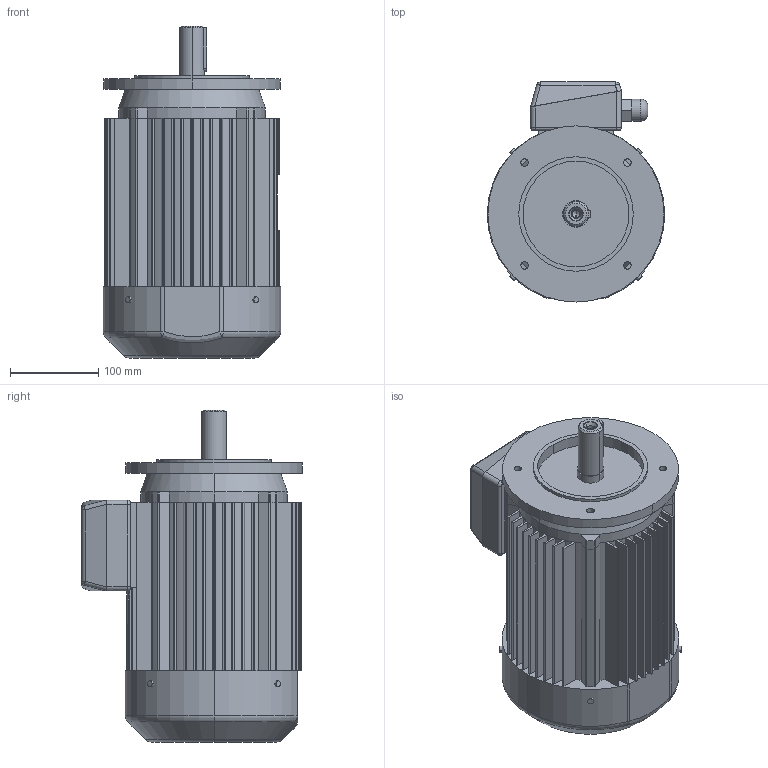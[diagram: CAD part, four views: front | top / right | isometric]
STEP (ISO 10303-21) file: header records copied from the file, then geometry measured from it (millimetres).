
FILE_DESCRIPTION (( 'STEP AP203' ), '1' );
FILE_NAME ('2SIEK100L2,6-B14-C1.STEP', '2013-01-07T13:03:14', ( 'INDUKTA' ), ( 'CANTONI MOTOR' ), 'SwSTEP 2.0', 'SolidWorks 2003064', '' );
FILE_SCHEMA (( 'CONFIG_CONTROL_DESIGN' ));
Length unit declared in the file: millimetre
Products named in the file (1): 2SIEK100L2,6-B14-C1
Bounding box: 201.5 x 250 x 377 mm (x, y, z)
Volume: 8638557.9 mm3; surface area: 621634.7 mm2
Topology: 11 solids, 11 shells, 388 faces, 1027 edges, 658 vertices
Faces by surface type: cylinder 185, plane 171, cone 14, torus 11, sphere 6, bspline 1
Entity records: 12575 total; most frequent: CARTESIAN_POINT 2640, DIRECTION 2161, ORIENTED_EDGE 2038, EDGE_CURVE 1019, AXIS2_PLACEMENT_3D 781, VERTEX_POINT 658, LINE 599, VECTOR 599
